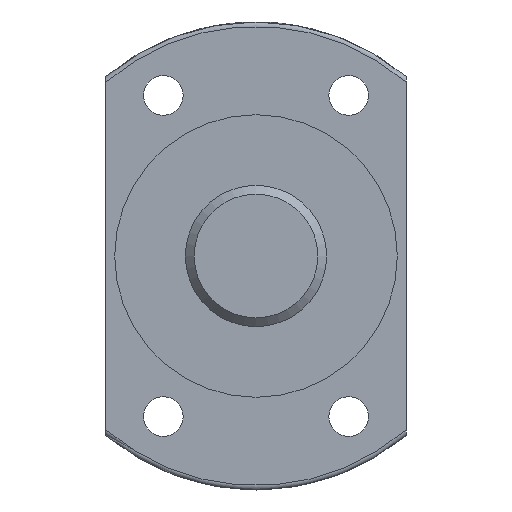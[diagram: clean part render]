
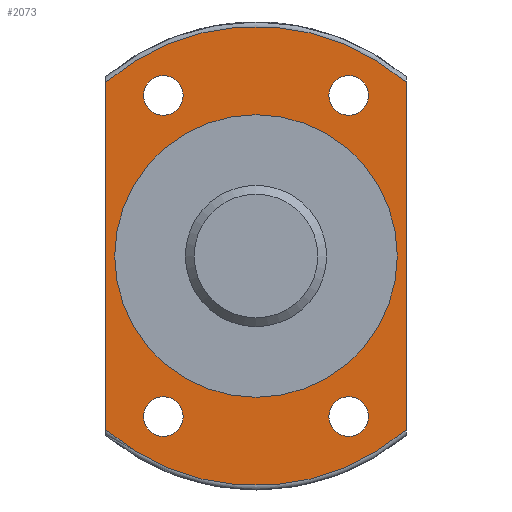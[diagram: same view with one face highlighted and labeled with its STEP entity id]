
A CAD part, left-side view. The second image highlights one B-rep face of the part: STEP entity #2073.
In plain terms, the highlighted planar face has unit normal (-1, 0, 0).
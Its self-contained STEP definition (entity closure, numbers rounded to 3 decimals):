
#106 = CIRCLE ( 'NONE', #806, 2.25 ) ;
#117 = CARTESIAN_POINT ( 'NONE',  ( -34.9, 17., -19.672 ) ) ;
#209 = FACE_BOUND ( 'NONE', #2494, .T. ) ;
#241 = CARTESIAN_POINT ( 'NONE',  ( -34.9, 0., 0. ) ) ;
#267 = ORIENTED_EDGE ( 'NONE', *, *, #2864, .T. ) ;
#338 = CIRCLE ( 'NONE', #489, 16. ) ;
#348 = CARTESIAN_POINT ( 'NONE',  ( -34.9, 17., 19.672 ) ) ;
#366 = CARTESIAN_POINT ( 'NONE',  ( -34.9, 10.5, 15.94 ) ) ;
#402 = FACE_OUTER_BOUND ( 'NONE', #2004, .T. ) ;
#428 = ORIENTED_EDGE ( 'NONE', *, *, #1084, .T. ) ;
#489 = AXIS2_PLACEMENT_3D ( 'NONE', #1999, #1783, #1095 ) ;
#537 = CIRCLE ( 'NONE', #2179, 26. ) ;
#540 = EDGE_CURVE ( 'NONE', #1554, #1327, #2859, .T. ) ;
#575 = CIRCLE ( 'NONE', #1230, 2.25 ) ;
#621 = AXIS2_PLACEMENT_3D ( 'NONE', #1303, #2205, #2010 ) ;
#654 = CARTESIAN_POINT ( 'NONE',  ( -34.9, 10.5, -20.44 ) ) ;
#664 = EDGE_CURVE ( 'NONE', #2146, #2146, #338, .T. ) ;
#740 = VERTEX_POINT ( 'NONE', #1066 ) ;
#792 = ORIENTED_EDGE ( 'NONE', *, *, #1686, .T. ) ;
#794 = EDGE_LOOP ( 'NONE', ( #2678 ) ) ;
#799 = DIRECTION ( 'NONE',  ( 1., 0., 0. ) ) ;
#806 = AXIS2_PLACEMENT_3D ( 'NONE', #2529, #1437, #1393 ) ;
#830 = EDGE_CURVE ( 'NONE', #2468, #2468, #990, .T. ) ;
#844 = DIRECTION ( 'NONE',  ( 0., 0., 1. ) ) ;
#850 = AXIS2_PLACEMENT_3D ( 'NONE', #1764, #902, #1365 ) ;
#862 = ORIENTED_EDGE ( 'NONE', *, *, #864, .T. ) ;
#864 = EDGE_CURVE ( 'NONE', #2217, #2217, #2082, .T. ) ;
#866 = FACE_BOUND ( 'NONE', #2856, .T. ) ;
#877 = VERTEX_POINT ( 'NONE', #348 ) ;
#902 = DIRECTION ( 'NONE',  ( 1., 0., 0. ) ) ;
#982 = CARTESIAN_POINT ( 'NONE',  ( -34.9, 17., 0. ) ) ;
#990 = CIRCLE ( 'NONE', #850, 2.25 ) ;
#1066 = CARTESIAN_POINT ( 'NONE',  ( -34.9, -17., 19.672 ) ) ;
#1084 = EDGE_CURVE ( 'NONE', #2416, #2416, #106, .T. ) ;
#1095 = DIRECTION ( 'NONE',  ( 0., 0., -1. ) ) ;
#1105 = FACE_BOUND ( 'NONE', #794, .T. ) ;
#1134 = CARTESIAN_POINT ( 'NONE',  ( -34.9, 10.5, -18.19 ) ) ;
#1135 = DIRECTION ( 'NONE',  ( 0., 0., 1. ) ) ;
#1230 = AXIS2_PLACEMENT_3D ( 'NONE', #1134, #1808, #1347 ) ;
#1303 = CARTESIAN_POINT ( 'NONE',  ( -34.9, 26., 0. ) ) ;
#1314 = CARTESIAN_POINT ( 'NONE',  ( -34.9, -10.5, -20.44 ) ) ;
#1323 = DIRECTION ( 'NONE',  ( -1., 0., 0. ) ) ;
#1327 = VERTEX_POINT ( 'NONE', #1449 ) ;
#1328 = AXIS2_PLACEMENT_3D ( 'NONE', #1997, #799, #1530 ) ;
#1331 = VECTOR ( 'NONE', #1679, 1000. ) ;
#1347 = DIRECTION ( 'NONE',  ( 0., 0., -1. ) ) ;
#1365 = DIRECTION ( 'NONE',  ( 0., 0., -1. ) ) ;
#1380 = DIRECTION ( 'NONE',  ( -1., 0., 0. ) ) ;
#1393 = DIRECTION ( 'NONE',  ( 0., 0., -1. ) ) ;
#1402 = EDGE_CURVE ( 'NONE', #740, #1327, #1461, .T. ) ;
#1437 = DIRECTION ( 'NONE',  ( 1., 0., 0. ) ) ;
#1449 = CARTESIAN_POINT ( 'NONE',  ( -34.9, -17., -19.672 ) ) ;
#1461 = LINE ( 'NONE', #1930, #1900 ) ;
#1530 = DIRECTION ( 'NONE',  ( 0., 0., -1. ) ) ;
#1554 = VERTEX_POINT ( 'NONE', #117 ) ;
#1567 = AXIS2_PLACEMENT_3D ( 'NONE', #2920, #1323, #844 ) ;
#1677 = ORIENTED_EDGE ( 'NONE', *, *, #830, .T. ) ;
#1679 = DIRECTION ( 'NONE',  ( 0., 0., -1. ) ) ;
#1686 = EDGE_CURVE ( 'NONE', #2006, #2006, #575, .T. ) ;
#1764 = CARTESIAN_POINT ( 'NONE',  ( -34.9, -10.5, 18.19 ) ) ;
#1777 = FACE_BOUND ( 'NONE', #2844, .T. ) ;
#1783 = DIRECTION ( 'NONE',  ( -1., 0., 0. ) ) ;
#1808 = DIRECTION ( 'NONE',  ( 1., 0., 0. ) ) ;
#1900 = VECTOR ( 'NONE', #2411, 1000. ) ;
#1930 = CARTESIAN_POINT ( 'NONE',  ( -34.9, -17., 0. ) ) ;
#1997 = CARTESIAN_POINT ( 'NONE',  ( -34.9, -10.5, -18.19 ) ) ;
#1999 = CARTESIAN_POINT ( 'NONE',  ( -34.9, 0., 0. ) ) ;
#2004 = EDGE_LOOP ( 'NONE', ( #2466, #267, #2050, #2829 ) ) ;
#2006 = VERTEX_POINT ( 'NONE', #654 ) ;
#2010 = DIRECTION ( 'NONE',  ( 0., 1., 0. ) ) ;
#2050 = ORIENTED_EDGE ( 'NONE', *, *, #540, .T. ) ;
#2073 = ADVANCED_FACE ( 'NONE', ( #209, #866, #2436, #1777, #402, #1105 ), #2699, .F. ) ;
#2082 = CIRCLE ( 'NONE', #1328, 2.25 ) ;
#2146 = VERTEX_POINT ( 'NONE', #2158 ) ;
#2158 = CARTESIAN_POINT ( 'NONE',  ( -34.9, 0., -16. ) ) ;
#2169 = CARTESIAN_POINT ( 'NONE',  ( -34.9, -10.5, 15.94 ) ) ;
#2179 = AXIS2_PLACEMENT_3D ( 'NONE', #241, #1380, #1135 ) ;
#2199 = EDGE_LOOP ( 'NONE', ( #1677 ) ) ;
#2205 = DIRECTION ( 'NONE',  ( 1., 0., 0. ) ) ;
#2217 = VERTEX_POINT ( 'NONE', #1314 ) ;
#2367 = EDGE_CURVE ( 'NONE', #740, #877, #537, .T. ) ;
#2411 = DIRECTION ( 'NONE',  ( 0., 0., -1. ) ) ;
#2416 = VERTEX_POINT ( 'NONE', #366 ) ;
#2436 = FACE_BOUND ( 'NONE', #2199, .T. ) ;
#2466 = ORIENTED_EDGE ( 'NONE', *, *, #2367, .T. ) ;
#2468 = VERTEX_POINT ( 'NONE', #2169 ) ;
#2494 = EDGE_LOOP ( 'NONE', ( #792 ) ) ;
#2529 = CARTESIAN_POINT ( 'NONE',  ( -34.9, 10.5, 18.19 ) ) ;
#2678 = ORIENTED_EDGE ( 'NONE', *, *, #664, .F. ) ;
#2699 = PLANE ( 'NONE',  #621 ) ;
#2829 = ORIENTED_EDGE ( 'NONE', *, *, #1402, .F. ) ;
#2833 = LINE ( 'NONE', #982, #1331 ) ;
#2844 = EDGE_LOOP ( 'NONE', ( #428 ) ) ;
#2856 = EDGE_LOOP ( 'NONE', ( #862 ) ) ;
#2859 = CIRCLE ( 'NONE', #1567, 26. ) ;
#2864 = EDGE_CURVE ( 'NONE', #877, #1554, #2833, .T. ) ;
#2920 = CARTESIAN_POINT ( 'NONE',  ( -34.9, 0., 0. ) ) ;
